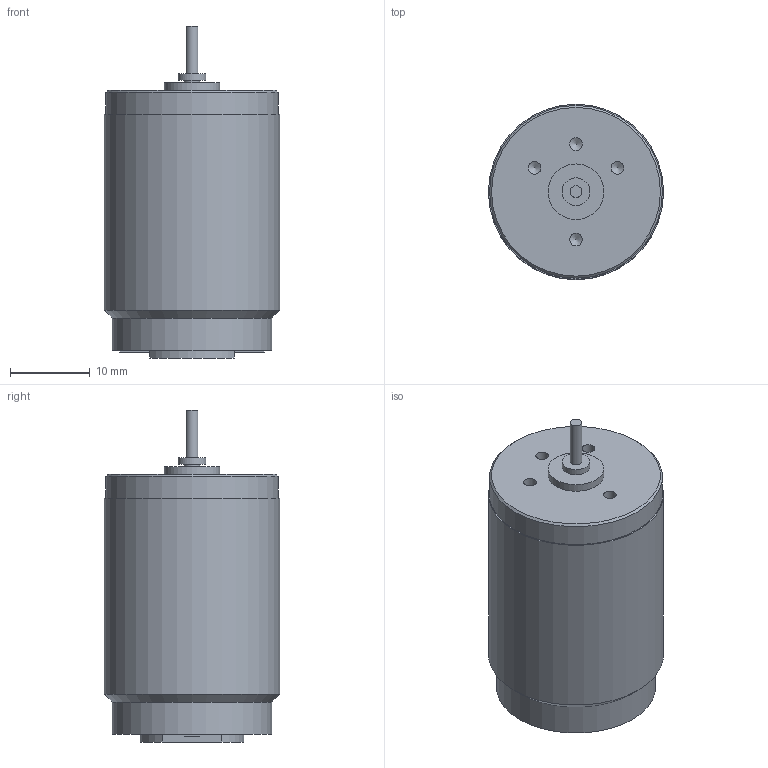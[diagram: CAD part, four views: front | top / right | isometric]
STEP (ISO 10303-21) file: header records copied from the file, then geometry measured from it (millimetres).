
FILE_DESCRIPTION(/* description */ (''),/* implementation_level */ '2;1');
FILE_NAME(/* name */ '2233TS.stp',/* time_stamp */ '2011-12-21T23:15:34+06:00',/* author */ (''),/* organization */ (''),/* preprocessor_version */ 'ST-DEVELOPER v11',/* originating_system */ 'SIEMENS PLM Software NX 7.5',/* authorisation */ '');
FILE_SCHEMA (('CONFIG_CONTROL_DESIGN'));
Length unit declared in the file: millimetre
Products named in the file (1): 2233TS
Bounding box: 22 x 22 x 41.7 mm (x, y, z)
Volume: 12201.3 mm3; surface area: 3155.8 mm2
Topology: 1 solids, 1 shells, 47 faces, 108 edges, 71 vertices
Faces by surface type: plane 24, cylinder 17, cone 6
Full cylindrical faces by diameter (mm): 1.5 x1, 1.6 x4, 2 x1, 3.5 x1, 7 x1, 20 x1, 21.7 x1, 22 x1
Entity records: 1278 total; most frequent: DIRECTION 214, CARTESIAN_POINT 198, ORIENTED_EDGE 166, EDGE_CURVE 83, AXIS2_PLACEMENT_3D 83, EDGE_LOOP 72, VERTEX_POINT 67, FACE_BOUND 54
